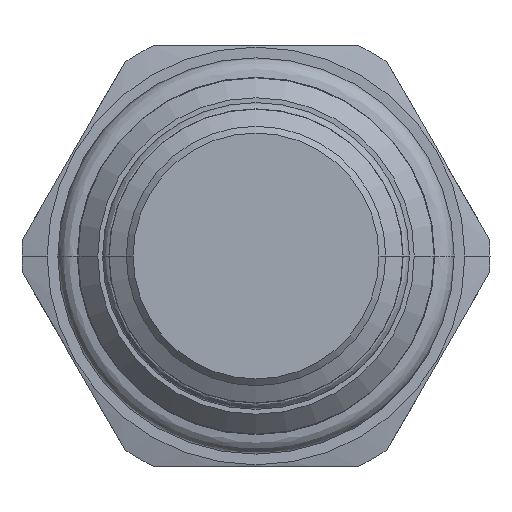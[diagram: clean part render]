
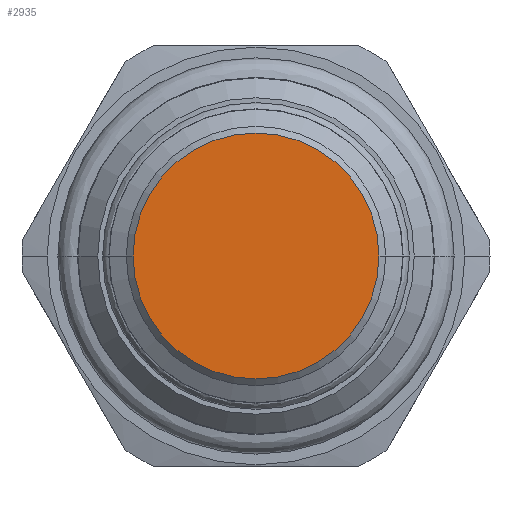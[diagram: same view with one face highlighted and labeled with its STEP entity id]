
A CAD part, front view. The second image highlights one B-rep face of the part: STEP entity #2935.
In plain terms, the highlighted planar face has unit normal (0, -1, 0).
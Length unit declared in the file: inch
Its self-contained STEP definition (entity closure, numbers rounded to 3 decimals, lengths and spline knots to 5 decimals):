
#648=CARTESIAN_POINT('',(0.,-2.39864,0.));
#649=DIRECTION('',(0.,1.,0.));
#650=DIRECTION('',(-1.,0.,0.));
#651=AXIS2_PLACEMENT_3D('',#648,#649,#650);
#658=CARTESIAN_POINT('',(0.,-2.39864,0.));
#659=DIRECTION('',(0.,1.,0.));
#660=DIRECTION('',(1.,0.,0.));
#661=AXIS2_PLACEMENT_3D('',#658,#659,#660);
#1643=CARTESIAN_POINT('',(-0.365,-2.39864,0.));
#1644=CARTESIAN_POINT('',(0.365,-2.39864,0.));
#1645=VERTEX_POINT('',#1643);
#1646=VERTEX_POINT('',#1644);
#2925=CARTESIAN_POINT('',(0.,-2.39864,0.));
#2926=DIRECTION('',(0.,-1.,0.));
#2927=DIRECTION('',(0.,0.,-1.));
#2928=AXIS2_PLACEMENT_3D('',#2925,#2926,#2927);
#2929=PLANE('',#2928);
#2931=ORIENTED_EDGE('',*,*,#2930,.T.);
#2932=ORIENTED_EDGE('',*,*,#2915,.T.);
#2933=EDGE_LOOP('',(#2931,#2932));
#2934=FACE_OUTER_BOUND('',#2933,.F.);
#2935=ADVANCED_FACE('',(#2934),#2929,.T.);
#652=CIRCLE('',#651,0.365);
#662=CIRCLE('',#661,0.365);
#2915=EDGE_CURVE('',#1645,#1646,#652,.T.);
#2930=EDGE_CURVE('',#1646,#1645,#662,.T.);
